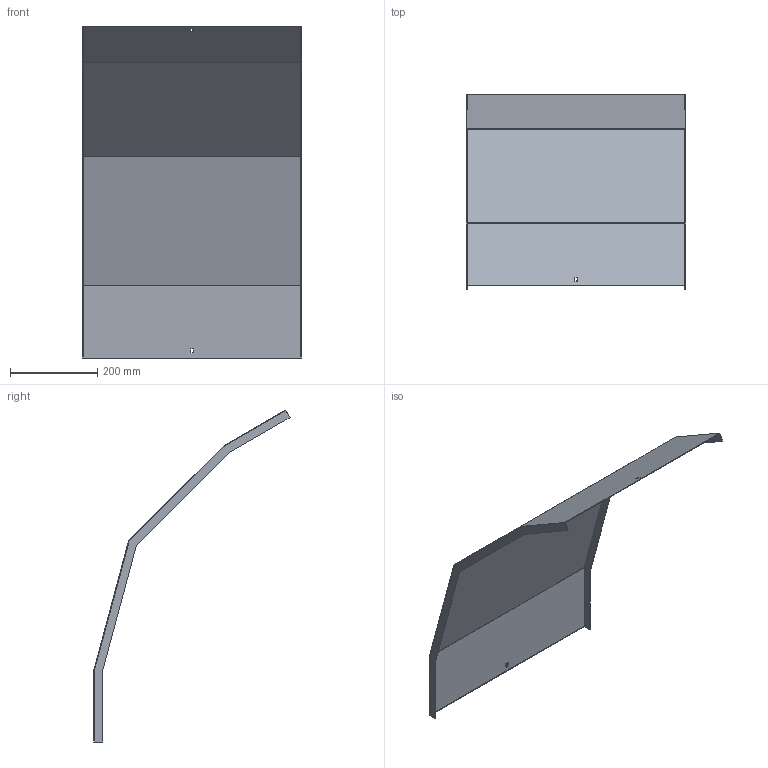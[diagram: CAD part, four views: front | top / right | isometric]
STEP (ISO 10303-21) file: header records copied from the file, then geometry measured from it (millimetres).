
FILE_DESCRIPTION (( 'STEP AP214' ), '1' );
FILE_NAME ('41N5D500.step', '2025-02-21T10:38:13', ( '' ), ( '' ), 'SwSTEP 2.0', 'SolidWorks 2023', '' );
FILE_SCHEMA (( 'AUTOMOTIVE_DESIGN' ));
Length unit declared in the file: millimetre
Products named in the file (1): 41N5D500
Bounding box: 503 x 449.97 x 762.06 mm (x, y, z)
Volume: 764242 mm3; surface area: 1023476.7 mm2
Topology: 1 solids, 1 shells, 30 faces, 84 edges, 56 vertices
Faces by surface type: plane 30
Entity records: 979 total; most frequent: CARTESIAN_POINT 171, ORIENTED_EDGE 168, DIRECTION 146, LINE 84, EDGE_CURVE 84, VECTOR 84, VERTEX_POINT 56, EDGE_LOOP 34
